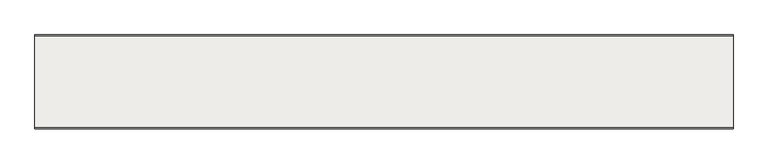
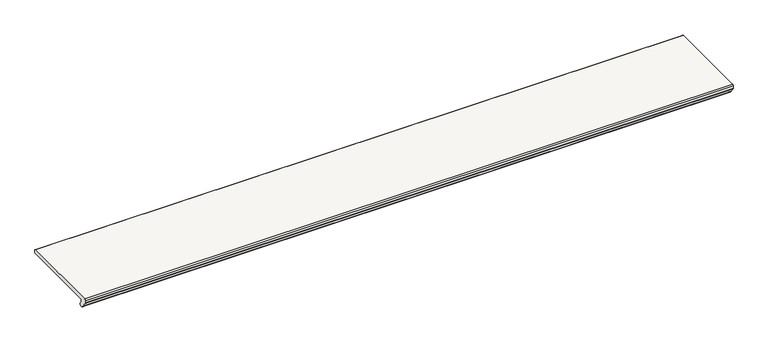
"""IFC4 building model written with IfcOpenShell, lengths in millimetres: slab geometry, ROSA GRES_J62 : Pieza J62_Tresor_Java_Anti-Slip."""

from ifc_helpers import new_model, si_unit, frame, origin, place, context, project, spatial, polyline, circle_curve, source, transform, mapped, element, save
from ifc_brep_helpers import plane_surface, cylinder_surface, revolved_surface, advanced_brep


def slab_7f38c4d1(model_context):
    return source(origin(), model_context, "Body", "AdvancedBrep", [
        advanced_brep(
        [(2360.5432129, 317.0, 2.5), (2360.5432129, 317.0, 10.0774941), (2360.5432129, 314.2818333, 12.7946269), (2360.5432129, 3.9876034, 12.7946269), (2360.5432129, 0.0, 8.2984975), (2360.5432129, 0.0, -0.2793766), (2360.5432129, 0.7963935, -2.84429), (2360.5432129, 14.760096, -23.1626329), (2360.5432129, 17.666394, -25.1262743), (2360.5432129, 18.5721049, -25.1262743), (2360.5432129, 19.473321, -26.1221068), (2360.5432129, 20.3835268, -27.1188383), (2360.5432129, 26.7240304, -27.1188383), (2360.5432129, 29.4411632, -24.4017055), (2360.5432129, 29.4411632, -18.2354274), (2360.5432129, 24.5931401, -10.7276172), (2360.5432129, 29.6363327, 0.0), (2360.5432129, 314.5, 0.0), (0.0, 317.0, 2.5), (0.0, 314.5, 0.0), (0.0, 29.6363327, 0.0), (0.0, 24.5931401, -10.7276172), (0.0, 29.4411632, -18.2354274), (0.0, 29.4411632, -24.4017055), (0.0, 26.7240304, -27.1188383), (0.0, 20.3835268, -27.1188383), (0.0, 19.4823107, -26.1230058), (0.0, 18.5721049, -25.1262743), (0.0, 17.666394, -25.1262743), (0.0, 14.760096, -23.1626329), (0.0, 0.7963935, -2.84429), (0.0, 0.0, -0.2793766), (0.0, 0.0, 8.2984975), (0.0, 3.9876034, 12.7946269), (0.0, 314.2818333, 12.7946269), (0.0, 316.9989661, 10.0774941)],
        [
            (0, 1),
            (1, 2, circle_curve(frame((2360.5432129, 314.2818333, 10.0774941), z_axis=(1.0, 0.0, 0.0), x_axis=(0.0, -1.0, 0.0)), 2.7171328)),
            (2, 3),
            (3, 4, circle_curve(frame((2360.5432129, 4.5285547, 8.2984975), z_axis=(1.0, 0.0, 0.0), x_axis=(0.0, -1.0, 0.0)), 4.5285547)),
            (4, 5),
            (5, 6, circle_curve(frame((2360.5432129, 4.5285547, -0.2793766), z_axis=(1.0, 0.0, 0.0), x_axis=(0.0, -1.0, 0.0)), 4.5285547)),
            (6, 7),
            (7, 8, circle_curve(frame((2360.5432129, 18.9818017, -20.0468365), z_axis=(1.0, 0.0, 0.0), x_axis=(0.0, -1.0, 0.0)), 5.2469978)),
            (8, 9),
            (9, 10, circle_curve(frame((2360.5432129, 18.5721049, -26.0319852), z_axis=(-1.0, 0.0, 0.0), x_axis=(0.0, -1.0, 0.0)), 0.9057109)),
            (10, 11, circle_curve(frame((2360.5432129, 20.3835268, -26.2131274), z_axis=(1.0, 0.0, 0.0), x_axis=(0.0, -1.0, 0.0)), 0.9057109)),
            (11, 12),
            (12, 13, circle_curve(frame((2360.5432129, 26.7240304, -24.4017055), z_axis=(1.0, 0.0, 0.0), x_axis=(0.0, -1.0, 0.0)), 2.7171328)),
            (13, 14),
            (14, 15),
            (15, 16, circle_curve(frame((2360.5432129, 30.1604402, -6.7956336), z_axis=(-1.0, 0.0, 0.0), x_axis=(0.0, -1.0, 0.0)), 6.8158144)),
            (16, 17),
            (17, 0, circle_curve(frame((2360.5432129, 314.5, 2.5), z_axis=(1.0, 0.0, 0.0), x_axis=(0.0, -1.0, 0.0)), 2.5)),
            (18, 19, circle_curve(frame((0.0, 314.5, 2.5), z_axis=(-1.0, 0.0, 0.0), x_axis=(0.0, -1.0, 0.0)), 2.5)),
            (19, 20),
            (20, 21, circle_curve(frame((0.0, 30.1604402, -6.7956336), z_axis=(1.0, 0.0, 0.0), x_axis=(0.0, -1.0, 0.0)), 6.8158144)),
            (21, 22),
            (22, 23),
            (23, 24, circle_curve(frame((0.0, 26.7240304, -24.4017055), z_axis=(-1.0, 0.0, 0.0), x_axis=(0.0, -1.0, 0.0)), 2.7171328)),
            (24, 25),
            (25, 26, circle_curve(frame((0.0, 20.3835268, -26.2131274), z_axis=(-1.0, 0.0, 0.0), x_axis=(0.0, -1.0, 0.0)), 0.9057109)),
            (26, 27, circle_curve(frame((0.0, 18.5721049, -26.0319852), z_axis=(1.0, 0.0, 0.0), x_axis=(0.0, -1.0, 0.0)), 0.9057109)),
            (27, 28),
            (28, 29, circle_curve(frame((0.0, 18.9818017, -20.0468365), z_axis=(-1.0, 0.0, 0.0), x_axis=(0.0, -1.0, 0.0)), 5.2469978)),
            (29, 30),
            (30, 31, circle_curve(frame((0.0, 4.5285547, -0.2793766), z_axis=(-1.0, 0.0, 0.0), x_axis=(0.0, -1.0, 0.0)), 4.5285547)),
            (31, 32),
            (32, 33, circle_curve(frame((0.0, 4.5285547, 8.2984975), z_axis=(-1.0, 0.0, 0.0), x_axis=(0.0, -1.0, 0.0)), 4.5285547)),
            (33, 34),
            (34, 35, circle_curve(frame((0.0, 314.2818333, 10.0774941), z_axis=(-1.0, 0.0, 0.0), x_axis=(0.0, -1.0, 0.0)), 2.7171328)),
            (35, 18),
            (16, 20),
            (19, 17),
            (18, 0),
            (35, 1),
            (34, 2),
            (33, 3),
            (32, 4),
            (31, 5),
            (30, 6),
            (29, 7),
            (28, 8),
            (27, 9),
            (26, 10),
            (25, 11),
            (24, 12),
            (23, 13),
            (22, 14),
            (21, 15),
        ],
        [
            plane_surface(frame((2360.5432129, 317.0, 10.0774941), z_axis=(1.0, 0.0, 0.0), x_axis=(0.0, 0.0, 1.0))),
            plane_surface(frame((0.0, 317.0, 10.0774941), z_axis=(-1.0, 0.0, 0.0), x_axis=(0.0, 0.0, -1.0))),
            plane_surface(frame((2360.5432129, 29.6363327, 0.0), z_axis=(0.0, 0.0, -1.0), x_axis=(-1.0, 0.0, 0.0))),
            cylinder_surface(frame((0.0, 314.5, 2.5), z_axis=(1.0, 0.0, 0.0), x_axis=(0.0, -1.0, 0.0)), 2.5),
            plane_surface(frame((2360.5432129, 317.0, 2.5), z_axis=(0.0, 1.0, 0.0), x_axis=(-1.0, 0.0, 0.0))),
            cylinder_surface(frame((0.0, 314.2818333, 10.0774941), z_axis=(1.0, 0.0, 0.0), x_axis=(0.0, -1.0, 0.0)), 2.7171328),
            plane_surface(frame((2360.5432129, 314.2818333, 12.7946269), z_axis=(0.0, 0.0, 1.0), x_axis=(-1.0, 0.0, 0.0))),
            cylinder_surface(frame((0.0, 4.5285547, 8.2984975), z_axis=(1.0, 0.0, 0.0), x_axis=(0.0, -1.0, 0.0)), 4.5285547),
            plane_surface(frame((2360.5432129, 0.0, 8.2984975), z_axis=(0.0, -1.0, 0.0), x_axis=(-1.0, 0.0, 0.0))),
            cylinder_surface(frame((0.0, 4.5285547, -0.2793766), z_axis=(1.0, 0.0, 0.0), x_axis=(0.0, -1.0, 0.0)), 4.5285547),
            plane_surface(frame((2360.5432129, 0.7963935, -2.84429), z_axis=(0.0, -0.8241395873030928, -0.5663867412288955), x_axis=(-1.0, 0.0, 0.0))),
            cylinder_surface(frame((0.0, 18.9818017, -20.0468365), z_axis=(1.0, 0.0, 0.0), x_axis=(0.0, -1.0, 0.0)), 5.2469978),
            plane_surface(frame((2360.5432129, 17.666394, -25.1262743), z_axis=(0.0, 0.0, -1.0), x_axis=(-1.0, 0.0, 0.0))),
            revolved_surface(polyline([(0.0, 17.666394, -26.0319852), (2360.5432129, 17.666394, -26.0319852)]), (0.0, 18.5721049, -26.0319852), (-1.0, 0.0, 0.0)),
            cylinder_surface(frame((0.0, 20.3835268, -26.2131274), z_axis=(1.0, 0.0, 0.0), x_axis=(0.0, -1.0, 0.0)), 0.9057109),
            plane_surface(frame((2360.5432129, 20.3835268, -27.1188383), z_axis=(0.0, 0.0, -1.0), x_axis=(-1.0, 0.0, 0.0))),
            cylinder_surface(frame((0.0, 26.7240304, -24.4017055), z_axis=(1.0, 0.0, 0.0), x_axis=(0.0, -1.0, 0.0)), 2.7171328),
            plane_surface(frame((2360.5432129, 29.4411632, -24.4017055), z_axis=(0.0, 1.0, 0.0), x_axis=(-1.0, 0.0, 0.0))),
            plane_surface(frame((2360.5432129, 29.4411632, -18.2354274), z_axis=(0.0, 0.8400786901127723, 0.5424645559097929), x_axis=(-1.0, 0.0, 0.0))),
            revolved_surface(polyline([(0.0, 23.3446258, -6.7956336), (2360.5432129, 23.3446258, -6.7956336)]), (0.0, 30.1604402, -6.7956336), (-1.0, 0.0, 0.0)),
        ],
        [
            (0, [[1, 2, 3, 4, 5, 6, 7, 8, 9, 10, 11, 12, 13, 14, 15, 16, 17, 18]]),
            (1, [[19, 20, 21, 22, 23, 24, 25, 26, 27, 28, 29, 30, 31, 32, 33, 34, 35, 36]]),
            (2, [[-17, 37, -20, 38]]),
            (3, [[-18, -38, -19, 39]]),
            (4, [[-1, -39, -36, 40]]),
            (5, [[-2, -40, -35, 41]]),
            (6, [[-3, -41, -34, 42]]),
            (7, [[-4, -42, -33, 43]]),
            (8, [[-5, -43, -32, 44]]),
            (9, [[-6, -44, -31, 45]]),
            (10, [[-7, -45, -30, 46]]),
            (11, [[-8, -46, -29, 47]]),
            (12, [[-9, -47, -28, 48]]),
            (13, [[-10, -48, -27, 49]]),
            (14, [[-11, -49, -26, 50]]),
            (15, [[-12, -50, -25, 51]]),
            (16, [[-13, -51, -24, 52]]),
            (17, [[-14, -52, -23, 53]]),
            (18, [[-15, -53, -22, 54]]),
            (19, [[-16, -54, -21, -37]]),
        ],
    ),
    ])


if __name__ == "__main__":
    model = new_model("IFC4")
    model_context = context("Model", 3, world=origin())
    ifc_project = project(units=[si_unit("LENGTHUNIT", "METRE", prefix="MILLI")], contexts=[model_context])
    site = spatial("IfcSite", under=ifc_project)
    building = spatial("IfcBuilding", under=site)
    placement = place(None, origin())
    slab_shape = slab_7f38c4d1(model_context)
    element("IfcSlab", 1, ObjectType="ROSA GRES_J62 : Pieza J62_Tresor_Java_Anti-Slip", at=placement, inside=building, context=model_context, shape_type="MappedRepresentation", body=[
        mapped(slab_shape, transform((0.0, 0.0, 0.0), x_axis=(1.0, 0.0, 0.0), y_axis=(0.0, 1.0, 0.0), z_axis=(0.0, 0.0, 1.0))),
    ])
    save(model, "model.ifc")
